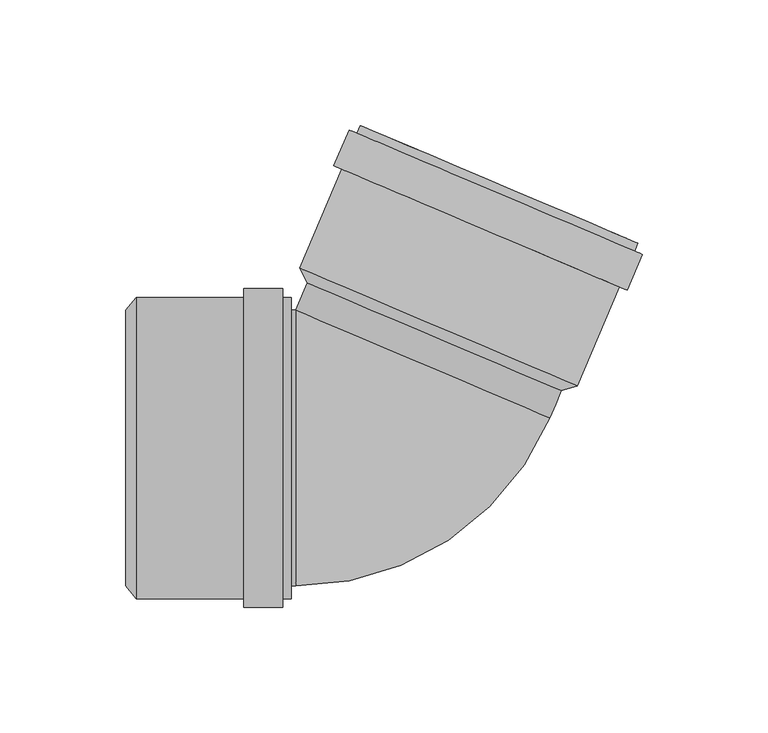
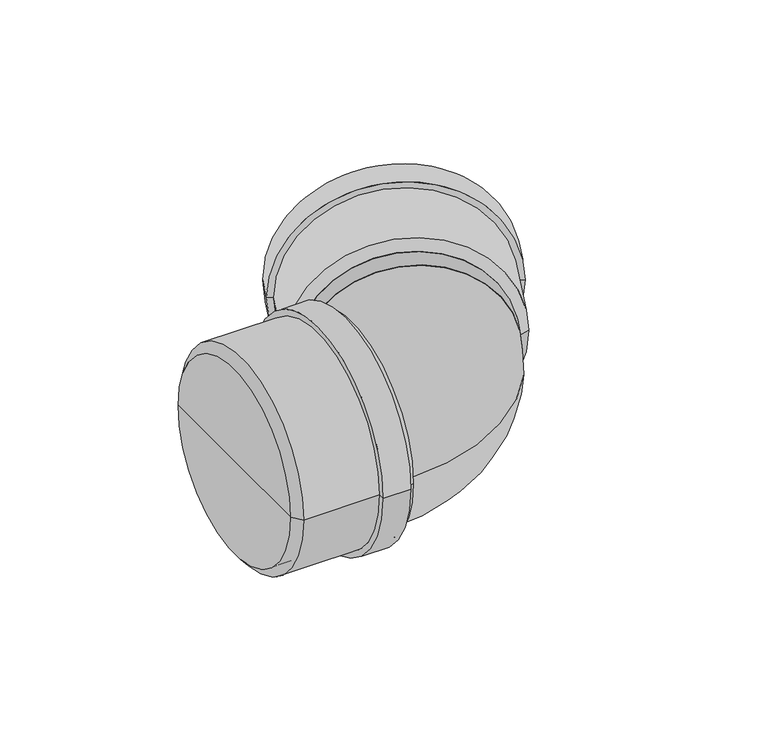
"""IFC4 building model written with IfcOpenShell, lengths in millimetres: pipe fitting geometry, pf_KGB : pf_KGB."""

from ifc_helpers import new_model, si_unit, point, frame, origin, origin_2d, place, context, project, spatial, polyline, circle_curve, ellipse_curve, trimmed, segment, composite_curve, outline, extrude, source, transform, mapped, element, save
from ifc_brep_helpers import plane_surface, cylinder_surface, revolved_surface, advanced_brep


def pipe_fitting_0f3e2c08(model_context):
    return source(origin(), model_context, "Body", "SolidModel", [
        advanced_brep(
        [(69.4610073, 22.8781219, 0.0), (-31.7945265, 65.858546, 0.0), (-34.8480306, 71.7173951, 0.0), (75.7966528, 24.7515135, 0.0), (18.8332404, 44.3683339, 0.0), (99.9438366, 81.6387134, 0.0), (-10.7008468, 128.6045951, 0.0), (-6.0062721, 126.6118663, 0.0), (95.2492618, 83.6314422, 0.0), (-12.0293327, 125.4748786, 0.0), (98.6153507, 78.5089969, 0.0), (-15.1590492, 126.8033644, 0.0), (101.7450672, 77.1805111, 0.0), (-21.2153816, 112.5355392, 0.0), (95.6887347, 62.9126859, 0.0), (-18.0856651, 111.2070534, 0.0), (92.5590182, 64.2411717, 0.0), (71.1020781, 26.7442423, 0.0), (-30.1534558, 69.7246664, 0.0), (20.4743111, 48.2344543, 0.0)],
        [
            (0, 1, circle_curve(frame((18.8332404, 44.3683339, 0.0), z_axis=(0.39073112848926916, 0.9205048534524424, 0.0), x_axis=(-0.9205048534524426, 0.3907311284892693, 0.0)), 55.0)),
            (1, 2),
            (2, 3, circle_curve(frame((20.4743111, 48.2344543, 0.0), z_axis=(-0.39073112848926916, -0.9205048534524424, 0.0), x_axis=(-0.9205048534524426, 0.3907311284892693, 0.0)), 60.1)),
            (3, 0),
            (1, 0, circle_curve(frame((18.8332404, 44.3683339, 0.0), z_axis=(0.39073112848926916, 0.9205048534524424, 0.0), x_axis=(-0.9205048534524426, 0.3907311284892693, 0.0)), 55.0)),
            (3, 2, circle_curve(frame((20.4743111, 48.2344543, 0.0), z_axis=(-0.39073112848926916, -0.9205048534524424, 0.0), x_axis=(-0.9205048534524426, 0.3907311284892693, 0.0)), 60.1)),
            (4, 1),
            (0, 4),
            (5, 6, circle_curve(frame((44.6214949, 105.1216543, 0.0), z_axis=(0.39073112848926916, 0.9205048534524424, 0.0), x_axis=(-0.9205048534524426, 0.3907311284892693, 0.0)), 60.1)),
            (6, 7),
            (7, 8, circle_curve(frame((44.6214949, 105.1216543, 0.0), z_axis=(-0.39073112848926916, -0.9205048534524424, 0.0), x_axis=(-0.9205048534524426, 0.3907311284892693, 0.0)), 55.0)),
            (8, 5),
            (9, 10, circle_curve(frame((43.293009, 101.9919378, 0.0), z_axis=(0.39073112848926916, 0.9205048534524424, 0.0), x_axis=(-0.9205048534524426, 0.3907311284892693, 0.0)), 60.1)),
            (10, 5),
            (5, 6, circle_curve(frame((44.6214949, 105.1216543, 0.0), z_axis=(-0.39073112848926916, -0.9205048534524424, 0.0), x_axis=(-0.9205048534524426, 0.3907311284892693, 0.0)), 60.1)),
            (6, 9),
            (11, 12, circle_curve(frame((43.293009, 101.9919378, 0.0), z_axis=(0.39073112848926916, 0.9205048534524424, 0.0), x_axis=(-0.9205048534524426, 0.3907311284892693, 0.0)), 63.5)),
            (12, 10),
            (9, 11),
            (13, 14, circle_curve(frame((37.2366765, 87.7241125, 0.0), z_axis=(0.39073112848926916, 0.9205048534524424, 0.0), x_axis=(-0.9205048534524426, 0.3907311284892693, 0.0)), 63.5)),
            (14, 12),
            (11, 13),
            (15, 16, circle_curve(frame((37.2366765, 87.7241125, 0.0), z_axis=(0.39073112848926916, 0.9205048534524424, 0.0), x_axis=(-0.9205048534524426, 0.3907311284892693, 0.0)), 60.1)),
            (16, 14),
            (13, 15),
            (8, 7, circle_curve(frame((44.6214949, 105.1216543, 0.0), z_axis=(-0.39073112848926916, -0.9205048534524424, 0.0), x_axis=(-0.9205048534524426, 0.3907311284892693, 0.0)), 55.0)),
            (10, 9, circle_curve(frame((43.293009, 101.9919378, 0.0), z_axis=(0.39073112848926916, 0.9205048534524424, 0.0), x_axis=(-0.9205048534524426, 0.3907311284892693, 0.0)), 60.1)),
            (12, 11, circle_curve(frame((43.293009, 101.9919378, 0.0), z_axis=(0.39073112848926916, 0.9205048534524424, 0.0), x_axis=(-0.9205048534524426, 0.3907311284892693, 0.0)), 63.5)),
            (14, 13, circle_curve(frame((37.2366765, 87.7241125, 0.0), z_axis=(0.39073112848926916, 0.9205048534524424, 0.0), x_axis=(-0.9205048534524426, 0.3907311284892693, 0.0)), 63.5)),
            (16, 15, circle_curve(frame((37.2366765, 87.7241125, 0.0), z_axis=(0.39073112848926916, 0.9205048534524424, 0.0), x_axis=(-0.9205048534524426, 0.3907311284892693, 0.0)), 60.1)),
            (2, 15),
            (16, 3),
            (17, 18, circle_curve(frame((20.4743111, 48.2344543, 0.0), z_axis=(0.39073112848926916, 0.9205048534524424, 0.0), x_axis=(-0.9205048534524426, 0.3907311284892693, 0.0)), 55.0)),
            (18, 19),
            (19, 17),
            (18, 17, circle_curve(frame((20.4743111, 48.2344543, 0.0), z_axis=(0.39073112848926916, 0.9205048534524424, 0.0), x_axis=(-0.9205048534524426, 0.3907311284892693, 0.0)), 55.0)),
            (7, 18),
            (17, 8),
        ],
        [
            revolved_surface(polyline([(-34.8480306, 71.7173951, 0.0), (-31.7945265, 65.858546, 0.0)]), (18.8332404, 44.3683339, 0.0), (-0.39073112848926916, -0.9205048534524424, 0.0)),
            plane_surface(frame((18.8332404, 44.3683339, 0.0), z_axis=(-0.39073112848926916, -0.9205048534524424, 0.0), x_axis=(-0.9205048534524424, 0.39073112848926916, 0.0))),
            plane_surface(frame((44.6214949, 105.1216543, 0.0), z_axis=(0.39073112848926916, 0.9205048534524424, 0.0), x_axis=(-0.9205048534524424, 0.39073112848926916, 0.0))),
            cylinder_surface(frame((18.8332404, 44.3683339, 0.0), z_axis=(-0.39073112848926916, -0.9205048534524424, 0.0), x_axis=(-0.9205048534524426, 0.3907311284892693, 0.0)), 60.1),
            plane_surface(frame((43.293009, 101.9919378, 0.0), z_axis=(0.39073112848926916, 0.9205048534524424, 0.0), x_axis=(-0.9205048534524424, 0.39073112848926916, 0.0))),
            cylinder_surface(frame((18.8332404, 44.3683339, 0.0), z_axis=(-0.39073112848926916, -0.9205048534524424, 0.0), x_axis=(-0.9205048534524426, 0.3907311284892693, 0.0)), 63.5),
            plane_surface(frame((37.2366765, 87.7241125, 0.0), z_axis=(-0.39073112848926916, -0.9205048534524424, 0.0), x_axis=(-0.9205048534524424, 0.39073112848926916, 0.0))),
            plane_surface(frame((20.4743111, 48.2344543, 0.0), z_axis=(0.39073112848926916, 0.9205048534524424, 0.0), x_axis=(-0.9205048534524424, 0.39073112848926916, 0.0))),
            revolved_surface(polyline([(-30.153455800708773, 69.72466635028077, 0.0), (-6.006272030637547, 126.61186636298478, 0.0)]), (18.8332404, 44.3683339, 0.0), (-0.39073112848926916, -0.9205048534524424, 0.0)),
        ],
        [
            (0, [[1, 2, 3, 4]]),
            (0, [[5, -4, 6, -2]]),
            (1, [[7, -1, 8]]),
            (1, [[-8, -5, -7]]),
            (2, [[9, 10, 11, 12]]),
            (3, [[13, 14, 15, 16]]),
            (4, [[17, 18, -13, 19]]),
            (5, [[20, 21, -17, 22]]),
            (6, [[23, 24, -20, 25]]),
            (2, [[-15, -12, 26, -10]]),
            (3, [[27, -16, -9, -14]]),
            (4, [[28, -19, -27, -18]]),
            (5, [[29, -22, -28, -21]]),
            (6, [[30, -25, -29, -24]]),
            (3, [[-3, 31, -30, 32]]),
            (3, [[-6, -32, -23, -31]]),
            (7, [[33, 34, 35]]),
            (7, [[36, -35, -34]]),
            (8, [[-11, 37, -33, 38]]),
            (8, [[-26, -38, -36, -37]]),
        ],
    ),
        advanced_brep(
        [(-104.2, -55.0, 0.0), (-104.2, 55.0, 0.0), (-100.0, 60.1, 0.0), (-100.0, -60.1, 0.0), (-104.2, 0.0, 0.0), (-38.2, -60.1, 0.0), (-38.2, 60.1, 0.0), (-38.2, 55.0, 0.0), (-38.2, -55.0, 0.0), (-41.6, 60.1, 0.0), (-41.6, -60.1, 0.0), (-41.6, 63.5, 0.0), (-41.6, -63.5, 0.0), (-57.1, 63.5, 0.0), (-57.1, -63.5, 0.0), (-57.1, 60.1, 0.0), (-57.1, -60.1, 0.0), (-100.0, -55.0, 0.0), (-100.0, 55.0, 0.0), (-100.0, 0.0, 0.0)],
        [
            (0, 1, circle_curve(frame((-104.2, 0.0, 0.0), z_axis=(1.0, 0.0, 0.0), x_axis=(0.0, 1.0, 0.0)), 55.0)),
            (1, 2),
            (2, 3, circle_curve(frame((-100.0, 0.0, 0.0), z_axis=(-1.0, 0.0, 0.0), x_axis=(0.0, 1.0, 0.0)), 60.1)),
            (3, 0),
            (1, 0, circle_curve(frame((-104.2, 0.0, 0.0), z_axis=(1.0, 0.0, 0.0), x_axis=(0.0, 1.0, 0.0)), 55.0)),
            (3, 2, circle_curve(frame((-100.0, 0.0, 0.0), z_axis=(-1.0, 0.0, 0.0), x_axis=(0.0, 1.0, 0.0)), 60.1)),
            (4, 1),
            (0, 4),
            (5, 6, circle_curve(frame((-38.2, 0.0, 0.0), z_axis=(1.0, 0.0, 0.0), x_axis=(0.0, 1.0, 0.0)), 60.1)),
            (6, 7),
            (7, 8, circle_curve(frame((-38.2, 0.0, 0.0), z_axis=(-1.0, 0.0, 0.0), x_axis=(0.0, 1.0, 0.0)), 55.0)),
            (8, 5),
            (9, 10, circle_curve(frame((-41.6, 0.0, 0.0), z_axis=(1.0, 0.0, 0.0), x_axis=(0.0, 1.0, 0.0)), 60.1)),
            (10, 5),
            (5, 6, circle_curve(frame((-38.2, 0.0, 0.0), z_axis=(-1.0, 0.0, 0.0), x_axis=(0.0, 1.0, 0.0)), 60.1)),
            (6, 9),
            (11, 12, circle_curve(frame((-41.6, 0.0, 0.0), z_axis=(1.0, 0.0, 0.0), x_axis=(0.0, 1.0, 0.0)), 63.5)),
            (12, 10),
            (9, 11),
            (13, 14, circle_curve(frame((-57.1, 0.0, 0.0), z_axis=(1.0, 0.0, 0.0), x_axis=(0.0, 1.0, 0.0)), 63.5)),
            (14, 12),
            (11, 13),
            (15, 16, circle_curve(frame((-57.1, 0.0, 0.0), z_axis=(1.0, 0.0, 0.0), x_axis=(0.0, 1.0, 0.0)), 60.1)),
            (16, 14),
            (13, 15),
            (8, 7, circle_curve(frame((-38.2, 0.0, 0.0), z_axis=(-1.0, 0.0, 0.0), x_axis=(0.0, 1.0, 0.0)), 55.0)),
            (10, 9, circle_curve(frame((-41.6, 0.0, 0.0), z_axis=(1.0, 0.0, 0.0), x_axis=(0.0, 1.0, 0.0)), 60.1)),
            (12, 11, circle_curve(frame((-41.6, 0.0, 0.0), z_axis=(1.0, 0.0, 0.0), x_axis=(0.0, 1.0, 0.0)), 63.5)),
            (14, 13, circle_curve(frame((-57.1, 0.0, 0.0), z_axis=(1.0, 0.0, 0.0), x_axis=(0.0, 1.0, 0.0)), 63.5)),
            (16, 15, circle_curve(frame((-57.1, 0.0, 0.0), z_axis=(1.0, 0.0, 0.0), x_axis=(0.0, 1.0, 0.0)), 60.1)),
            (2, 15),
            (16, 3),
            (17, 18, circle_curve(frame((-100.0, 0.0, 0.0), z_axis=(1.0, 0.0, 0.0), x_axis=(0.0, 1.0, 0.0)), 55.0)),
            (18, 19),
            (19, 17),
            (18, 17, circle_curve(frame((-100.0, 0.0, 0.0), z_axis=(1.0, 0.0, 0.0), x_axis=(0.0, 1.0, 0.0)), 55.0)),
            (7, 18),
            (17, 8),
        ],
        [
            revolved_surface(polyline([(-100.0, 60.1, 0.0), (-104.2, 55.0, 0.0)]), (-104.2, 0.0, 0.0), (-1.0, 0.0, 0.0)),
            plane_surface(frame((-104.2, 0.0, 0.0), z_axis=(-1.0, 0.0, 0.0), x_axis=(0.0, 1.0, 0.0))),
            plane_surface(frame((-38.2, 0.0, 0.0), z_axis=(1.0, 0.0, 0.0), x_axis=(0.0, 1.0, 0.0))),
            cylinder_surface(frame((-104.2, 0.0, 0.0), z_axis=(-1.0, 0.0, 0.0), x_axis=(0.0, 1.0, 0.0)), 60.1),
            plane_surface(frame((-41.6, 0.0, 0.0), z_axis=(1.0, 0.0, 0.0), x_axis=(0.0, 1.0, 0.0))),
            cylinder_surface(frame((-104.2, 0.0, 0.0), z_axis=(-1.0, 0.0, 0.0), x_axis=(0.0, 1.0, 0.0)), 63.5),
            plane_surface(frame((-57.1, 0.0, 0.0), z_axis=(-1.0, 0.0, 0.0), x_axis=(0.0, 1.0, 0.0))),
            plane_surface(frame((-100.0, 0.0, 0.0), z_axis=(1.0, 0.0, 0.0), x_axis=(0.0, 1.0, 0.0))),
            revolved_surface(polyline([(-100.0, 55.0, 0.0), (-38.2, 55.0, 0.0)]), (-104.2, 0.0, 0.0), (-1.0, 0.0, 0.0)),
        ],
        [
            (0, [[1, 2, 3, 4]]),
            (0, [[5, -4, 6, -2]]),
            (1, [[7, -1, 8]]),
            (1, [[-8, -5, -7]]),
            (2, [[9, 10, 11, 12]]),
            (3, [[13, 14, 15, 16]]),
            (4, [[17, 18, -13, 19]]),
            (5, [[20, 21, -17, 22]]),
            (6, [[23, 24, -20, 25]]),
            (2, [[-15, -12, 26, -10]]),
            (3, [[27, -16, -9, -14]]),
            (4, [[28, -19, -27, -18]]),
            (5, [[29, -22, -28, -21]]),
            (6, [[30, -25, -29, -24]]),
            (3, [[-3, 31, -30, 32]]),
            (3, [[-6, -32, -23, -31]]),
            (7, [[33, 34, 35]]),
            (7, [[36, -35, -34]]),
            (8, [[-11, 37, -33, 38]]),
            (8, [[-26, -38, -36, -37]]),
        ],
    ),
        extrude(outline(composite_curve([segment(trimmed(circle_curve(origin_2d(), 55.0), [point((0.0, -55.0000001))], [point((0.0, 54.9999999))], False, "CARTESIAN"), True, "CONTINUOUS"), segment(trimmed(circle_curve(origin_2d(), 55.0), [point((0.0, 54.9999999))], [point((0.0, -55.0000001))], False, "CARTESIAN"), True, "CONTINUOUS")], self_intersect=False)), frame((14.2240611, 33.5097879, 0.0), z_axis=(0.3907311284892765, 0.9205048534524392, 0.0), x_axis=(0.0, 0.0, 1.0)), (0.0, 0.0, 1.0), 11.7962941),
        extrude(outline(composite_curve([segment(trimmed(circle_curve(origin_2d(), 55.0), [point((-55.0, 0.0))], [point((55.0, 0.0))], False, "CARTESIAN"), True, "CONTINUOUS"), segment(trimmed(circle_curve(origin_2d(), 55.0), [point((55.0, 0.0))], [point((-55.0, 0.0))], False, "CARTESIAN"), True, "CONTINUOUS")], self_intersect=False)), frame((-100.0, 0.0, 0.0), z_axis=(1.0, 0.0, 0.0), x_axis=(0.0, 1.0, 0.0)), (0.0, 0.0, 1.0), 63.5962941),
        advanced_brep(
        [(-36.4037059, -55.0, 0.0), (-36.4037059, 55.0, 0.0), (64.851828, 12.0195759, 0.0)],
        [
            (0, 1, circle_curve(frame((-36.4037059, 0.0, 0.0), z_axis=(-1.0, 0.0, 0.0), x_axis=(0.0, 1.0, 0.0)), 55.0)),
            (1, 0, circle_curve(frame((-36.4037059, 0.0, 0.0), z_axis=(-1.0, 0.0, 0.0), x_axis=(0.0, 1.0, 0.0)), 55.0)),
            (2, 1, circle_curve(frame((14.2240611, 33.5097879, 0.0), z_axis=(0.39073112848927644, 0.9205048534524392, 0.0), x_axis=(-0.9205048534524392, 0.39073112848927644, 0.0)), 55.0)),
            (1, 2, circle_curve(frame((14.2240611, 33.5097879, 0.0), z_axis=(0.39073112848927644, 0.9205048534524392, 0.0), x_axis=(-0.9205048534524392, 0.39073112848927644, 0.0)), 55.0)),
            (2, 0, circle_curve(frame((-36.4037059, 55.0, 0.0), z_axis=(0.0, 0.0, -1.0), x_axis=(0.0, -1.0, 0.0)), 110.0)),
        ],
        [
            plane_surface(frame((-36.4037059, 55.0, -14.8), z_axis=(-1.0, 0.0, 0.0), x_axis=(0.0, -1.0, 0.0))),
            plane_surface(frame((-36.4037059, 55.0, -14.8), z_axis=(0.39073112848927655, 0.9205048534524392, 0.0), x_axis=(0.9205048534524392, -0.39073112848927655, 0.0))),
            revolved_surface(trimmed(ellipse_curve(frame((-36.4037059, 0.0, 0.0), z_axis=(1.0, 0.0, 0.0), x_axis=(0.0, 1.0, 0.0)), 55.0, 55.0), [point((-36.4037059, -55.0, 0.0))], [point((-36.4037059, 55.0, 0.0))], True, "CARTESIAN"), (-36.4037059, 55.0, -14.8), (0.0, 0.0, -1.0)),
            revolved_surface(trimmed(ellipse_curve(frame((-36.4037059, 0.0, 0.0), z_axis=(1.0, 0.0, 0.0), x_axis=(0.0, 1.0, 0.0)), 55.0, 55.0), [point((-36.4037059, 55.0, 0.0))], [point((-36.4037059, -55.0, 0.0))], True, "CARTESIAN"), (-36.4037059, 55.0, -14.8), (0.0, 0.0, -1.0)),
        ],
        [
            (0, [[1, 2]]),
            (1, [[3, 4]]),
            (2, [[5, -2, -3]]),
            (3, [[-1, -5, -4]]),
        ],
    ),
    ])


if __name__ == "__main__":
    model = new_model("IFC4")
    model_context = context("Model", 3, world=origin())
    ifc_project = project(units=[si_unit("LENGTHUNIT", "METRE", prefix="MILLI")], contexts=[model_context])
    site = spatial("IfcSite", under=ifc_project)
    building = spatial("IfcBuilding", under=site)
    placement = place(None, origin())
    pipe_fitting_shape = pipe_fitting_0f3e2c08(model_context)
    element("IfcPipeFitting", 1, ObjectType="pf_KGB : pf_KGB", at=placement, inside=building, context=model_context, shape_type="MappedRepresentation", body=[
        mapped(pipe_fitting_shape, transform((0.0, 0.0, 0.0), x_axis=(1.0, 0.0, 0.0), y_axis=(0.0, 1.0, 0.0), z_axis=(0.0, 0.0, 1.0))),
    ])
    save(model, "model.ifc")
